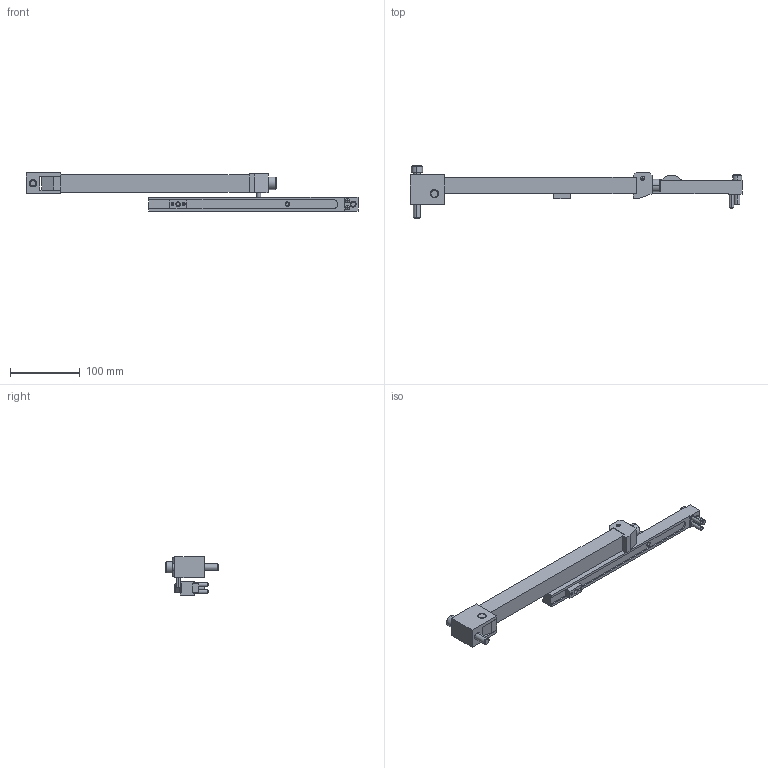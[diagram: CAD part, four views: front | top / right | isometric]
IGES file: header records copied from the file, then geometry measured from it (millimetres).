
Start section: START RECORD GO HERE.
Global section: file name: BOX300FIX.igs; native system: DASSAULT SYSTEMES CATIA V5 R20 - www.3ds.com; preprocessor: CATIA Version 5 Release 20 ; author: Utente; organization: NB04-ASUS; date: 20210221.175337; units: millimetre
Bounding box: 476 x 75 x 55 mm (x, y, z)
Surface area: 97517.7 mm2 (no closed solid volume)
Topology: 0 solids, 0 shells, 280 faces, 1568 edges, 1526 vertices
Faces by surface type: revolution 152, plane 128
